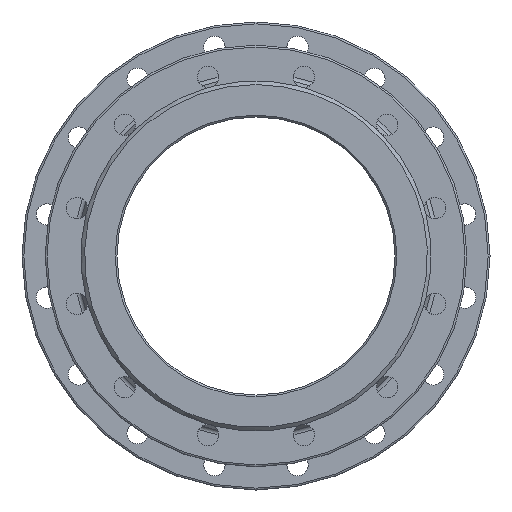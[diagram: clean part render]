
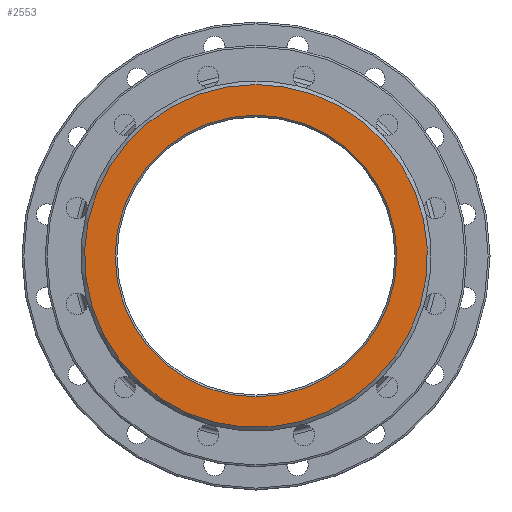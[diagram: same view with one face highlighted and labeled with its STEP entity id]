
A CAD part, left-side view. The second image highlights one B-rep face of the part: STEP entity #2553.
In plain terms, the highlighted planar face has unit normal (-1, 0, 0).
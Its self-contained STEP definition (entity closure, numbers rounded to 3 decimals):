
#74 = DIRECTION ( 'NONE',  ( 1., 0., 0. ) ) ;
#241 = DIRECTION ( 'NONE',  ( 0., 0., 1. ) ) ;
#298 = FACE_BOUND ( 'NONE', #1919, .T. ) ;
#389 = CIRCLE ( 'NONE', #2298, 152. ) ;
#452 = DIRECTION ( 'NONE',  ( -1., 0., 0. ) ) ;
#468 = VERTEX_POINT ( 'NONE', #3044 ) ;
#613 = EDGE_CURVE ( 'NONE', #3267, #3267, #389, .T. ) ;
#746 = CARTESIAN_POINT ( 'NONE',  ( 0., 0., 0. ) ) ;
#817 = FACE_OUTER_BOUND ( 'NONE', #937, .T. ) ;
#937 = EDGE_LOOP ( 'NONE', ( #3039 ) ) ;
#1046 = ORIENTED_EDGE ( 'NONE', *, *, #613, .T. ) ;
#1592 = AXIS2_PLACEMENT_3D ( 'NONE', #746, #452, #241 ) ;
#1658 = AXIS2_PLACEMENT_3D ( 'NONE', #1825, #3378, #2349 ) ;
#1825 = CARTESIAN_POINT ( 'NONE',  ( 0., 150., 0. ) ) ;
#1886 = CARTESIAN_POINT ( 'NONE',  ( 0., 0., 0. ) ) ;
#1919 = EDGE_LOOP ( 'NONE', ( #1046 ) ) ;
#2251 = CIRCLE ( 'NONE', #1592, 185. ) ;
#2298 = AXIS2_PLACEMENT_3D ( 'NONE', #1886, #74, #3253 ) ;
#2349 = DIRECTION ( 'NONE',  ( 0., 0., -1. ) ) ;
#2384 = PLANE ( 'NONE',  #1658 ) ;
#2553 = ADVANCED_FACE ( 'NONE', ( #298, #817 ), #2384, .F. ) ;
#2733 = CARTESIAN_POINT ( 'NONE',  ( 0., 0., -152. ) ) ;
#3039 = ORIENTED_EDGE ( 'NONE', *, *, #3124, .T. ) ;
#3044 = CARTESIAN_POINT ( 'NONE',  ( 0., 0., 185. ) ) ;
#3124 = EDGE_CURVE ( 'NONE', #468, #468, #2251, .T. ) ;
#3253 = DIRECTION ( 'NONE',  ( 0., 0., -1. ) ) ;
#3267 = VERTEX_POINT ( 'NONE', #2733 ) ;
#3378 = DIRECTION ( 'NONE',  ( 1., 0., 0. ) ) ;
